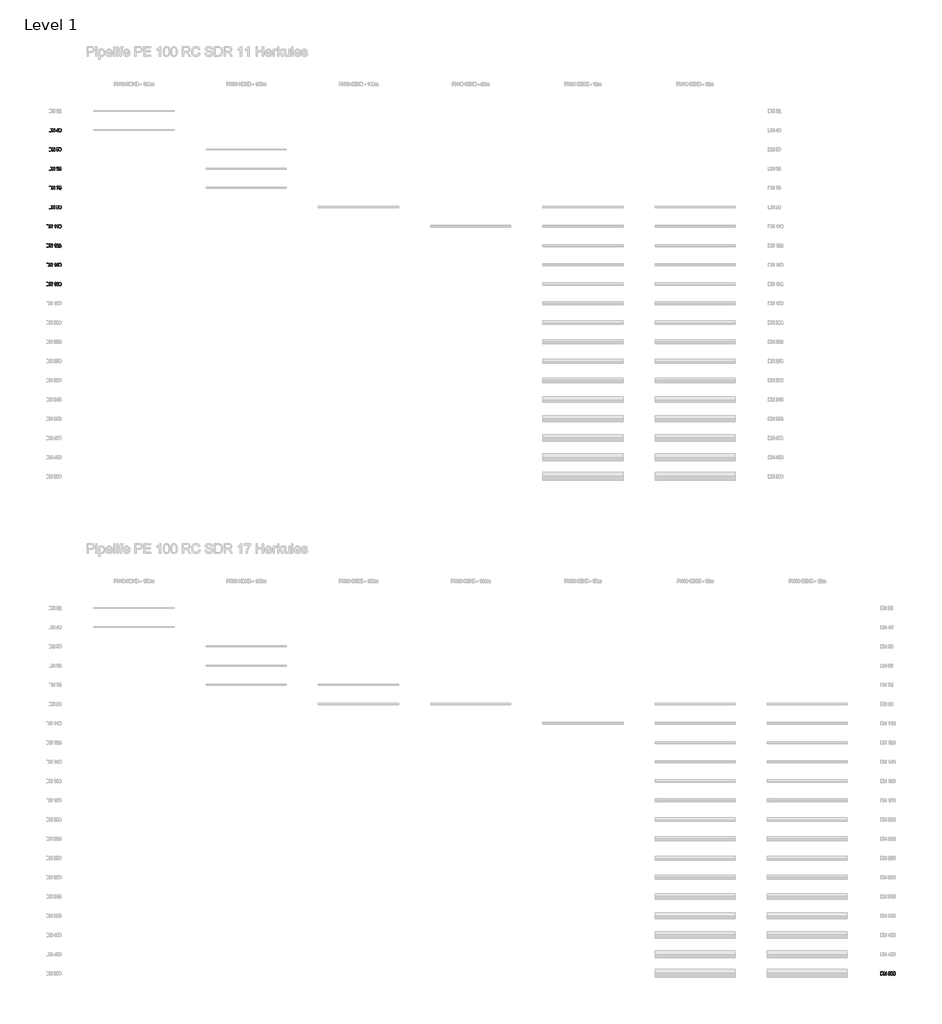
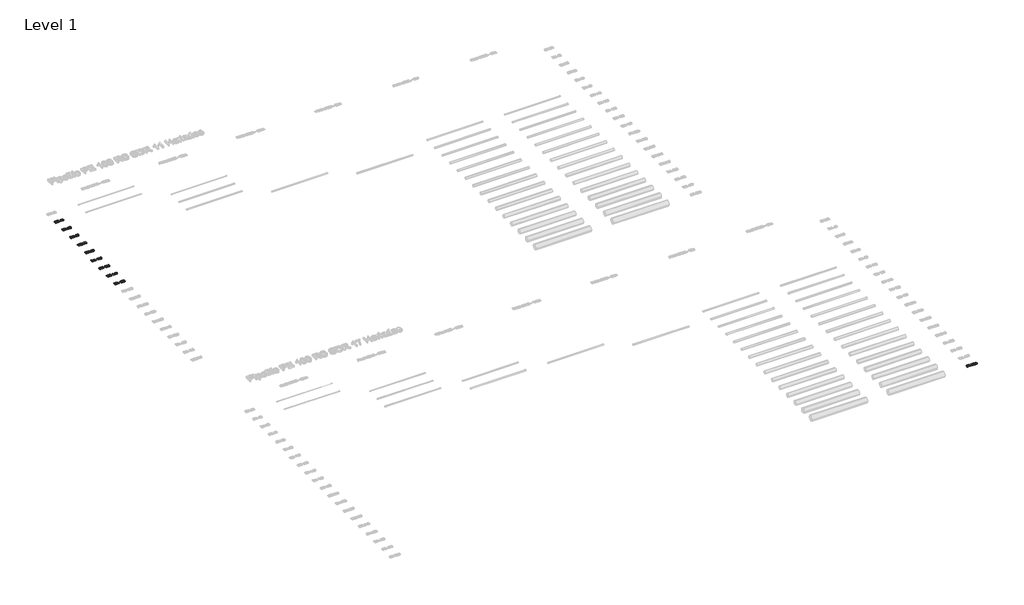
# One storey, part 8 of 17: 10 proxies.
"""IFC4 building model written with IfcOpenShell, lengths in millimetres."""

from ifc_helpers import new_model, si_unit, origin, origin_with_axes, place, context, project, spatial, polyline, outline, extrude, element, save

model = new_model("IFC4")

# Units and contexts
model_context = context("Model", 3, world=origin())
ifc_project = project(units=[si_unit("LENGTHUNIT", "METRE", prefix="MILLI")], contexts=[model_context])

# Site, building, storey
site = spatial("IfcSite", under=ifc_project)
building = spatial("IfcBuilding", under=site)
storey = spatial("IfcBuildingStorey", under=building, Name="Level 1", Elevation=0.0)

# Proxies
placement = place(None, origin())
element("IfcBuildingElementProxy", 1, Name="200mm Arial", ObjectType="200mm Arial", at=placement, inside=storey, context=model_context, shape_type="SweptSolid", body=[
    extrude(outline(polyline([(-19491.3116028, -10313.949573), (-19491.3116028, -10113.0369527), (-19422.0026349, -10113.0369527), (-19386.1464031, -10115.9309577), (-19370.1312736, -10121.5105013), (-19356.6177416, -10130.302881), (-19342.724065, -10145.606772), (-19332.8280393, -10164.6385338), (-19326.9051392, -10187.0302846), (-19324.9308391, -10212.4141423), (-19330.2773908, -10252.9547382), (-19344.0116519, -10282.2136195), (-19362.3567008, -10300.436041), (-19386.3671323, -10310.5160077), (-19418.6671715, -10313.949573), (-19491.3116028, -10313.949573)]), holes=[polyline([(-19466.1975253, -10288.8354954), (-19421.7573803, -10288.8354954), (-19389.4328156, -10285.2057264), (-19370.7934612, -10274.9540815), (-19362.0685265, -10264.0831685), (-19355.5140957, -10250.0116822), (-19351.4122114, -10232.6783089), (-19350.0449167, -10212.0217348), (-19352.7243239, -10184.6513144), (-19360.7625455, -10164.4423301), (-19372.6390025, -10150.5609162), (-19386.8331162, -10142.1732067), (-19422.4440933, -10138.1510302), (-19466.1975253, -10138.1510302), (-19466.1975253, -10288.8354954)])]), origin_with_axes(), (0.0, 0.0, 1.0), 50.0),
    extrude(outline(polyline([(-19290.3989825, -10313.949573), (-19290.3989825, -10113.0369527), (-19263.5190714, -10113.0369527), (-19158.5500754, -10272.2072292), (-19158.5500754, -10113.0369527), (-19133.4359979, -10113.0369527), (-19133.4359979, -10313.949573), (-19160.315909, -10313.949573), (-19265.284905, -10154.7302454), (-19265.284905, -10313.949573), (-19290.3989825, -10313.949573)])), origin_with_axes(), (0.0, 0.0, 1.0), 50.0),
    extrude(outline(polyline([(-18926.2448582, -10313.949573), (-18951.3589358, -10313.949573), (-18951.3589358, -10157.3789958), (-18975.1486381, -10174.3260931), (-19001.5870908, -10187.0057592), (-19001.5870908, -10163.2651077), (-18964.7743658, -10139.769711), (-18951.3037535, -10126.1948653), (-18942.431666, -10113.0369527), (-18926.2448582, -10113.0369527), (-18926.2448582, -10313.949573)])), origin_with_axes(), (0.0, 0.0, 1.0), 50.0),
    extrude(outline(polyline([(-18737.8892767, -10166.4043674), (-18763.0033542, -10169.5436271), (-18772.5192352, -10148.5988789), (-18783.9113143, -10140.7629924), (-18797.6823636, -10138.1510302), (-18820.3438945, -10144.2333458), (-18829.7800677, -10153.8411973), (-18837.4871955, -10167.066555), (-18842.6927257, -10185.7733545), (-18844.6241062, -10211.8255311), (-18834.5502709, -10200.0717013), (-18822.4776101, -10191.7882251), (-18809.0805741, -10186.8770005), (-18795.0336133, -10185.2399256), (-18771.8325221, -10189.7158232), (-18752.3593018, -10203.143516), (-18739.1523382, -10223.6590686), (-18734.750017, -10249.3985455), (-18736.8224189, -10267.3818437), (-18743.0396246, -10284.0530295), (-18752.8865994, -10298.1919608), (-18765.8483083, -10308.5784958), (-18781.3361403, -10314.9612484), (-18798.7614842, -10317.0888326), (-18827.2539447, -10311.4479754), (-18849.9461324, -10294.5254036), (-18858.6051549, -10281.4165418), (-18864.7901709, -10264.6533856), (-18869.7381838, -10220.1641897), (-18864.2444793, -10170.144501), (-18857.3773487, -10151.0667539), (-18847.7633659, -10135.9437382), (-18837.3431084, -10125.9220195), (-18825.2612505, -10118.763649), (-18796.1127338, -10113.0369527), (-18774.0766023, -10116.5808825), (-18756.4305292, -10127.2126722), (-18744.0696942, -10144.0984558), (-18737.8892767, -10166.4043674)]), holes=[polyline([(-18844.6241062, -10249.0061381), (-18838.8115707, -10270.7602267), (-18823.3605269, -10286.554627), (-18800.7235215, -10291.9747551), (-18784.1504376, -10289.1665892), (-18771.1212836, -10280.7420915), (-18762.6783918, -10267.4983397), (-18759.8640945, -10250.2324114), (-18762.6416036, -10233.6593275), (-18770.9741308, -10221.022581), (-18784.224014, -10213.0211476), (-18801.7535911, -10210.3540031), (-18818.3021495, -10213.0211476), (-18832.1406439, -10221.022581), (-18841.5032406, -10233.3527592), (-18844.6241062, -10249.0061381)])]), origin_with_axes(), (0.0, 0.0, 1.0), 50.0),
    extrude(outline(polyline([(-18712.7751992, -10215.1119436), (-18710.9296578, -10182.9529258), (-18705.3930338, -10157.3054194), (-18696.2205094, -10137.7770168), (-18683.4672669, -10123.9753106), (-18667.0413358, -10115.7715422), (-18646.8507456, -10113.0369527), (-18631.3751764, -10114.6556334), (-18617.5182879, -10119.5116758), (-18605.930005, -10127.4150073), (-18597.2602527, -10138.1755557), (-18585.4880288, -10167.9004209), (-18580.9262921, -10215.1119436), (-18582.7534393, -10247.0870203), (-18588.2348811, -10272.6732131), (-18597.3522232, -10292.2200098), (-18610.0870716, -10306.0768983), (-18626.5497909, -10314.335849), (-18646.8507456, -10317.0888326), (-18672.9458418, -10312.3063667), (-18692.7624186, -10297.9589689), (-18701.5180101, -10282.8298218), (-18707.772004, -10263.9789353), (-18712.7751992, -10215.1119436)]), holes=[polyline([(-18687.6611216, -10215.0628927), (-18684.7180657, -10254.5672876), (-18675.8888978, -10277.4311536), (-18662.7432478, -10288.3388547), (-18646.8507456, -10291.9747551), (-18630.9582434, -10288.326592), (-18617.8125935, -10277.3821026), (-18608.9834256, -10254.5059739), (-18606.0403696, -10215.0628927), (-18608.8853237, -10176.4475459), (-18617.420186, -10153.4058703), (-18630.5413105, -10141.9647402), (-18647.1450512, -10138.1510302), (-18662.8658751, -10141.5110191), (-18675.4964903, -10151.5909857), (-18684.6199638, -10176.0674012), (-18687.6611216, -10215.0628927)])]), origin_with_axes(), (0.0, 0.0, 1.0), 50.0),
])
element("IfcBuildingElementProxy", 2, Name="200mm Arial", ObjectType="200mm Arial", at=placement, inside=storey, context=model_context, shape_type="SweptSolid", body=[
    extrude(outline(polyline([(-19337.4878779, -713.949573), (-19337.4878779, -513.0369527), (-19268.17891, -513.0369527), (-19232.3226782, -515.9309577), (-19216.3075487, -521.5105013), (-19202.7940167, -530.302881), (-19188.90034, -545.606772), (-19179.0043144, -564.6385338), (-19173.0814143, -587.0302846), (-19171.1071142, -612.4141423), (-19176.4536659, -652.9547382), (-19190.187927, -682.2136195), (-19208.5329759, -700.436041), (-19232.5434074, -710.5160077), (-19264.8434466, -713.949573), (-19337.4878779, -713.949573)]), holes=[polyline([(-19312.3738004, -688.8354954), (-19267.9336553, -688.8354954), (-19235.6090907, -685.2057264), (-19216.9697363, -674.9540815), (-19208.2448016, -664.0831685), (-19201.6903707, -650.0116822), (-19197.5884865, -632.6783089), (-19196.2211917, -612.0217348), (-19198.9005989, -584.6513144), (-19206.9388205, -564.4423301), (-19218.8152776, -550.5609162), (-19233.0093913, -542.1732067), (-19268.6203684, -538.1510302), (-19312.3738004, -538.1510302), (-19312.3738004, -688.8354954)])]), origin_with_axes(), (0.0, 0.0, 1.0), 50.0),
    extrude(outline(polyline([(-19136.5752576, -713.949573), (-19136.5752576, -513.0369527), (-19109.6953465, -513.0369527), (-19004.7263505, -672.2072292), (-19004.7263505, -513.0369527), (-18979.612273, -513.0369527), (-18979.612273, -713.949573), (-19006.4921841, -713.949573), (-19111.4611801, -554.7302454), (-19111.4611801, -713.949573), (-19136.5752576, -713.949573)])), origin_with_axes(), (0.0, 0.0, 1.0), 50.0),
    extrude(outline(polyline([(-18784.9781721, -713.949573), (-18784.9781721, -666.8606776), (-18876.0167031, -666.8606776), (-18876.0167031, -641.7466), (-18778.6996527, -516.1762123), (-18759.8640945, -516.1762123), (-18759.8640945, -641.7466), (-18734.750017, -641.7466), (-18734.750017, -666.8606776), (-18759.8640945, -666.8606776), (-18759.8640945, -713.949573), (-18784.9781721, -713.949573)]), holes=[polyline([(-18784.9781721, -641.7466), (-18784.9781721, -564.1480245), (-18845.1146156, -641.7466), (-18784.9781721, -641.7466)])]), origin_with_axes(), (0.0, 0.0, 1.0), 50.0),
    extrude(outline(polyline([(-18712.7751992, -615.1119436), (-18710.9296578, -582.9529258), (-18705.3930338, -557.3054194), (-18696.2205094, -537.7770168), (-18683.4672669, -523.9753106), (-18667.0413358, -515.7715422), (-18646.8507456, -513.0369527), (-18631.3751764, -514.6556334), (-18617.5182879, -519.5116758), (-18605.930005, -527.4150073), (-18597.2602527, -538.1755557), (-18585.4880288, -567.9004209), (-18580.9262921, -615.1119436), (-18582.7534393, -647.0870203), (-18588.2348811, -672.6732131), (-18597.3522232, -692.2200098), (-18610.0870716, -706.0768983), (-18626.5497909, -714.335849), (-18646.8507456, -717.0888326), (-18672.9458418, -712.3063667), (-18692.7624186, -697.9589689), (-18701.5180101, -682.8298218), (-18707.772004, -663.9789353), (-18712.7751992, -615.1119436)]), holes=[polyline([(-18687.6611216, -615.0628927), (-18684.7180657, -654.5672876), (-18675.8888978, -677.4311536), (-18662.7432478, -688.3388547), (-18646.8507456, -691.9747551), (-18630.9582434, -688.326592), (-18617.8125935, -677.3821026), (-18608.9834256, -654.5059739), (-18606.0403696, -615.0628927), (-18608.8853237, -576.4475459), (-18617.420186, -553.4058703), (-18630.5413105, -541.9647402), (-18647.1450512, -538.1510302), (-18662.8658751, -541.5110191), (-18675.4964903, -551.5909857), (-18684.6199638, -576.0674012), (-18687.6611216, -615.0628927)])]), origin_with_axes(), (0.0, 0.0, 1.0), 50.0),
])
element("IfcBuildingElementProxy", 3, Name="200mm Arial", ObjectType="200mm Arial", at=placement, inside=storey, context=model_context, shape_type="SweptSolid", body=[
    extrude(outline(polyline([(-19337.4878779, -1913.949573), (-19337.4878779, -1713.0369527), (-19268.17891, -1713.0369527), (-19232.3226782, -1715.9309577), (-19216.3075487, -1721.5105013), (-19202.7940167, -1730.302881), (-19188.90034, -1745.606772), (-19179.0043144, -1764.6385338), (-19173.0814143, -1787.0302846), (-19171.1071142, -1812.4141423), (-19176.4536659, -1852.9547382), (-19190.187927, -1882.2136195), (-19208.5329759, -1900.436041), (-19232.5434074, -1910.5160077), (-19264.8434466, -1913.949573), (-19337.4878779, -1913.949573)]), holes=[polyline([(-19312.3738004, -1888.8354954), (-19267.9336553, -1888.8354954), (-19235.6090907, -1885.2057264), (-19216.9697363, -1874.9540815), (-19208.2448016, -1864.0831685), (-19201.6903707, -1850.0116822), (-19197.5884865, -1832.6783089), (-19196.2211917, -1812.0217348), (-19198.9005989, -1784.6513144), (-19206.9388205, -1764.4423301), (-19218.8152776, -1750.5609162), (-19233.0093913, -1742.1732067), (-19268.6203684, -1738.1510302), (-19312.3738004, -1738.1510302), (-19312.3738004, -1888.8354954)])]), origin_with_axes(), (0.0, 0.0, 1.0), 50.0),
    extrude(outline(polyline([(-19136.5752576, -1913.949573), (-19136.5752576, -1713.0369527), (-19109.6953465, -1713.0369527), (-19004.7263505, -1872.2072292), (-19004.7263505, -1713.0369527), (-18979.612273, -1713.0369527), (-18979.612273, -1913.949573), (-19006.4921841, -1913.949573), (-19111.4611801, -1754.7302454), (-19111.4611801, -1913.949573), (-19136.5752576, -1913.949573)])), origin_with_axes(), (0.0, 0.0, 1.0), 50.0),
    extrude(outline(polyline([(-18866.5989241, -1860.5821582), (-18841.4848465, -1857.4428985), (-18836.8740589, -1872.5199289), (-18828.8297059, -1883.3172655), (-18817.3885758, -1889.8103827), (-18802.5874569, -1891.9747551), (-18784.5857646, -1888.9642541), (-18771.0967581, -1879.9327511), (-18762.6722604, -1865.9225785), (-18759.8640945, -1847.9760685), (-18762.4944508, -1831.0780222), (-18770.3855196, -1818.1531014), (-18783.5986146, -1809.9493329), (-18802.1950494, -1807.2147434), (-18824.2434437, -1811.5802764), (-18838.3455868, -1822.9110419), (-18863.4596644, -1819.7717822), (-18841.4848465, -1716.1762123), (-18744.1677961, -1716.1762123), (-18744.1677961, -1741.2902899), (-18821.1777604, -1741.2902899), (-18831.9199147, -1796.619742), (-18813.979536, -1785.7304349), (-18795.1807661, -1782.1006659), (-18771.7160261, -1786.601089), (-18752.2366745, -1800.1023582), (-18739.1216814, -1820.6792244), (-18734.750017, -1846.4064386), (-18738.6863543, -1871.5205162), (-18750.4953664, -1893.0048247), (-18760.9309523, -1903.5415782), (-18773.1078464, -1911.0678307), (-18787.0260485, -1915.5835821), (-18802.6855588, -1917.0888326), (-18827.3520466, -1913.2199403), (-18847.0030765, -1901.6132634), (-18860.4736888, -1883.6177025), (-18866.5989241, -1860.5821582)])), origin_with_axes(), (0.0, 0.0, 1.0), 50.0),
    extrude(outline(polyline([(-18712.7751992, -1815.1119436), (-18710.9296578, -1782.9529258), (-18705.3930338, -1757.3054194), (-18696.2205094, -1737.7770168), (-18683.4672669, -1723.9753106), (-18667.0413358, -1715.7715422), (-18646.8507456, -1713.0369527), (-18631.3751764, -1714.6556334), (-18617.5182879, -1719.5116758), (-18605.930005, -1727.4150073), (-18597.2602527, -1738.1755557), (-18585.4880288, -1767.9004209), (-18580.9262921, -1815.1119436), (-18582.7534393, -1847.0870203), (-18588.2348811, -1872.6732131), (-18597.3522232, -1892.2200098), (-18610.0870716, -1906.0768983), (-18626.5497909, -1914.335849), (-18646.8507456, -1917.0888326), (-18672.9458418, -1912.3063667), (-18692.7624186, -1897.9589689), (-18701.5180101, -1882.8298218), (-18707.772004, -1863.9789353), (-18712.7751992, -1815.1119436)]), holes=[polyline([(-18687.6611216, -1815.0628927), (-18684.7180657, -1854.5672876), (-18675.8888978, -1877.4311536), (-18662.7432478, -1888.3388547), (-18646.8507456, -1891.9747551), (-18630.9582434, -1888.326592), (-18617.8125935, -1877.3821026), (-18608.9834256, -1854.5059739), (-18606.0403696, -1815.0628927), (-18608.8853237, -1776.4475459), (-18617.420186, -1753.4058703), (-18630.5413105, -1741.9647402), (-18647.1450512, -1738.1510302), (-18662.8658751, -1741.5110191), (-18675.4964903, -1751.5909857), (-18684.6199638, -1776.0674012), (-18687.6611216, -1815.0628927)])]), origin_with_axes(), (0.0, 0.0, 1.0), 50.0),
])
element("IfcBuildingElementProxy", 4, Name="200mm Arial", ObjectType="200mm Arial", at=placement, inside=storey, context=model_context, shape_type="SweptSolid", body=[
    extrude(outline(polyline([(-19337.4878779, -3113.949573), (-19337.4878779, -2913.0369527), (-19268.17891, -2913.0369527), (-19232.3226782, -2915.9309577), (-19216.3075487, -2921.5105013), (-19202.7940167, -2930.302881), (-19188.90034, -2945.606772), (-19179.0043144, -2964.6385338), (-19173.0814143, -2987.0302846), (-19171.1071142, -3012.4141423), (-19176.4536659, -3052.9547382), (-19190.187927, -3082.2136195), (-19208.5329759, -3100.436041), (-19232.5434074, -3110.5160077), (-19264.8434466, -3113.949573), (-19337.4878779, -3113.949573)]), holes=[polyline([(-19312.3738004, -3088.8354954), (-19267.9336553, -3088.8354954), (-19235.6090907, -3085.2057264), (-19216.9697363, -3074.9540815), (-19208.2448016, -3064.0831685), (-19201.6903707, -3050.0116822), (-19197.5884865, -3032.6783089), (-19196.2211917, -3012.0217348), (-19198.9005989, -2984.6513144), (-19206.9388205, -2964.4423301), (-19218.8152776, -2950.5609162), (-19233.0093913, -2942.1732067), (-19268.6203684, -2938.1510302), (-19312.3738004, -2938.1510302), (-19312.3738004, -3088.8354954)])]), origin_with_axes(), (0.0, 0.0, 1.0), 50.0),
    extrude(outline(polyline([(-19136.5752576, -3113.949573), (-19136.5752576, -2913.0369527), (-19109.6953465, -2913.0369527), (-19004.7263505, -3072.2072292), (-19004.7263505, -2913.0369527), (-18979.612273, -2913.0369527), (-18979.612273, -3113.949573), (-19006.4921841, -3113.949573), (-19111.4611801, -2954.7302454), (-19111.4611801, -3113.949573), (-19136.5752576, -3113.949573)])), origin_with_axes(), (0.0, 0.0, 1.0), 50.0),
    extrude(outline(polyline([(-18737.8892767, -2966.4043674), (-18763.0033542, -2969.5436271), (-18772.5192352, -2948.5988789), (-18783.9113143, -2940.7629924), (-18797.6823636, -2938.1510302), (-18820.3438945, -2944.2333458), (-18829.7800677, -2953.8411973), (-18837.4871955, -2967.066555), (-18842.6927257, -2985.7733545), (-18844.6241062, -3011.8255311), (-18834.5502709, -3000.0717013), (-18822.4776101, -2991.7882251), (-18809.0805741, -2986.8770005), (-18795.0336133, -2985.2399256), (-18771.8325221, -2989.7158232), (-18752.3593018, -3003.143516), (-18739.1523382, -3023.6590686), (-18734.750017, -3049.3985455), (-18736.8224189, -3067.3818437), (-18743.0396246, -3084.0530295), (-18752.8865994, -3098.1919608), (-18765.8483083, -3108.5784958), (-18781.3361403, -3114.9612484), (-18798.7614842, -3117.0888326), (-18827.2539447, -3111.4479754), (-18849.9461324, -3094.5254036), (-18858.6051549, -3081.4165418), (-18864.7901709, -3064.6533856), (-18869.7381838, -3020.1641897), (-18864.2444793, -2970.144501), (-18857.3773487, -2951.0667539), (-18847.7633659, -2935.9437382), (-18837.3431084, -2925.9220195), (-18825.2612505, -2918.763649), (-18796.1127338, -2913.0369527), (-18774.0766023, -2916.5808825), (-18756.4305292, -2927.2126722), (-18744.0696942, -2944.0984558), (-18737.8892767, -2966.4043674)]), holes=[polyline([(-18844.6241062, -3049.0061381), (-18838.8115707, -3070.7602267), (-18823.3605269, -3086.554627), (-18800.7235215, -3091.9747551), (-18784.1504376, -3089.1665892), (-18771.1212836, -3080.7420915), (-18762.6783918, -3067.4983397), (-18759.8640945, -3050.2324114), (-18762.6416036, -3033.6593275), (-18770.9741308, -3021.022581), (-18784.224014, -3013.0211476), (-18801.7535911, -3010.3540031), (-18818.3021495, -3013.0211476), (-18832.1406439, -3021.022581), (-18841.5032406, -3033.3527592), (-18844.6241062, -3049.0061381)])]), origin_with_axes(), (0.0, 0.0, 1.0), 50.0),
    extrude(outline(polyline([(-18712.7751992, -3060.5821582), (-18687.6611216, -3057.4428985), (-18682.0386585, -3073.2250361), (-18673.8042331, -3083.8813512), (-18662.5531754, -3089.9514041), (-18647.8808152, -3091.9747551), (-18630.6639378, -3089.1911147), (-18617.3711351, -3080.8401934), (-18608.873061, -3068.3812565), (-18606.0403696, -3053.2735692), (-18608.8485355, -3038.9323028), (-18617.2730332, -3027.3011004), (-18630.0262757, -3019.5939726), (-18645.820676, -3017.02493), (-18663.4299609, -3019.7717822), (-18660.6340577, -2994.6577047), (-18656.6118812, -2994.9520102), (-18641.5655076, -2993.1493885), (-18628.1132893, -2987.7415231), (-18618.6219339, -2978.5935242), (-18615.4581487, -2965.5705016), (-18617.7512798, -2954.7241141), (-18624.6306731, -2945.925603), (-18635.1275727, -2940.0946734), (-18648.2732227, -2938.1510302), (-18661.4433981, -2940.1130675), (-18672.2100778, -2945.9991794), (-18680.0704898, -2955.809366), (-18684.5218619, -2969.5436271), (-18709.6359395, -2966.4043674), (-18702.2415114, -2943.8532011), (-18689.0835987, -2927.0164685), (-18671.0819064, -2916.5318316), (-18649.1561395, -2913.0369527), (-18633.3678705, -2914.7598667), (-18618.8671885, -2919.9286087), (-18606.6412435, -2928.0833263), (-18597.6771856, -2938.7641669), (-18592.1773498, -2951.0698196), (-18590.3440712, -2964.0989736), (-18592.0853793, -2976.2390794), (-18597.3093036, -2987.2510138), (-18605.9422678, -2996.6320047), (-18617.9106953, -3003.87928), (-18602.1898714, -3010.2313758), (-18590.5402749, -3021.0471064), (-18583.3297878, -3035.7378608), (-18580.9262921, -3053.7150276), (-18585.7332835, -3078.191443), (-18600.1542577, -3098.645682), (-18621.9206091, -3112.478045), (-18648.763732, -3117.0888326), (-18673.0439437, -3113.1524953), (-18692.8114695, -3101.3434833), (-18706.5579934, -3083.2804773), (-18712.7751992, -3060.5821582)])), origin_with_axes(), (0.0, 0.0, 1.0), 50.0),
])
element("IfcBuildingElementProxy", 5, Name="200mm Arial", ObjectType="200mm Arial", at=placement, inside=storey, context=model_context, shape_type="SweptSolid", body=[
    extrude(outline(polyline([(-19337.4878779, -4313.949573), (-19337.4878779, -4113.0369527), (-19268.17891, -4113.0369527), (-19232.3226782, -4115.9309577), (-19216.3075487, -4121.5105013), (-19202.7940167, -4130.302881), (-19188.90034, -4145.606772), (-19179.0043144, -4164.6385338), (-19173.0814143, -4187.0302846), (-19171.1071142, -4212.4141423), (-19176.4536659, -4252.9547382), (-19190.187927, -4282.2136195), (-19208.5329759, -4300.436041), (-19232.5434074, -4310.5160077), (-19264.8434466, -4313.949573), (-19337.4878779, -4313.949573)]), holes=[polyline([(-19312.3738004, -4288.8354954), (-19267.9336553, -4288.8354954), (-19235.6090907, -4285.2057264), (-19216.9697363, -4274.9540815), (-19208.2448016, -4264.0831685), (-19201.6903707, -4250.0116822), (-19197.5884865, -4232.6783089), (-19196.2211917, -4212.0217348), (-19198.9005989, -4184.6513144), (-19206.9388205, -4164.4423301), (-19218.8152776, -4150.5609162), (-19233.0093913, -4142.1732067), (-19268.6203684, -4138.1510302), (-19312.3738004, -4138.1510302), (-19312.3738004, -4288.8354954)])]), origin_with_axes(), (0.0, 0.0, 1.0), 50.0),
    extrude(outline(polyline([(-19136.5752576, -4313.949573), (-19136.5752576, -4113.0369527), (-19109.6953465, -4113.0369527), (-19004.7263505, -4272.2072292), (-19004.7263505, -4113.0369527), (-18979.612273, -4113.0369527), (-18979.612273, -4313.949573), (-19006.4921841, -4313.949573), (-19111.4611801, -4154.7302454), (-19111.4611801, -4313.949573), (-19136.5752576, -4313.949573)])), origin_with_axes(), (0.0, 0.0, 1.0), 50.0),
    extrude(outline(polyline([(-18866.5989241, -4141.2902899), (-18866.5989241, -4116.1762123), (-18734.750017, -4116.1762123), (-18734.750017, -4136.4832985), (-18753.5426556, -4160.2668695), (-18772.1513532, -4190.5129008), (-18788.5650215, -4224.4622776), (-18800.7725724, -4259.3558849), (-18810.0922496, -4313.949573), (-18835.2063271, -4313.949573), (-18832.4901317, -4288.0629432), (-18825.2244623, -4257.2957457), (-18813.6055227, -4224.6830068), (-18797.8295164, -4193.2597531), (-18779.4108912, -4164.8531317), (-18759.8640945, -4141.2902899), (-18866.5989241, -4141.2902899)])), origin_with_axes(), (0.0, 0.0, 1.0), 50.0),
    extrude(outline(polyline([(-18712.7751992, -4260.5821582), (-18687.6611216, -4257.4428985), (-18683.0503339, -4272.5199289), (-18675.005981, -4283.3172655), (-18663.5648509, -4289.8103827), (-18648.763732, -4291.9747551), (-18630.7620397, -4288.9642541), (-18617.2730332, -4279.9327511), (-18608.8485355, -4265.9225785), (-18606.0403696, -4247.9760685), (-18608.6707259, -4231.0780222), (-18616.5617947, -4218.1531014), (-18629.7748897, -4209.9493329), (-18648.3713245, -4207.2147434), (-18670.4197188, -4211.5802764), (-18684.5218619, -4222.9110419), (-18709.6359395, -4219.7717822), (-18687.6611216, -4116.1762123), (-18590.3440712, -4116.1762123), (-18590.3440712, -4141.2902899), (-18667.3540355, -4141.2902899), (-18678.0961897, -4196.619742), (-18660.1558111, -4185.7304349), (-18641.3570412, -4182.1006659), (-18617.8923012, -4186.601089), (-18598.4129496, -4200.1023582), (-18585.2979565, -4220.6792244), (-18580.9262921, -4246.4064386), (-18584.8626294, -4271.5205162), (-18596.6716415, -4293.0048247), (-18607.1072274, -4303.5415782), (-18619.2841214, -4311.0678307), (-18633.2023236, -4315.5835821), (-18648.8618339, -4317.0888326), (-18673.5283216, -4313.2199403), (-18693.1793515, -4301.6132634), (-18706.6499639, -4283.6177025), (-18712.7751992, -4260.5821582)])), origin_with_axes(), (0.0, 0.0, 1.0), 50.0),
])
element("IfcBuildingElementProxy", 6, Name="200mm Arial", ObjectType="200mm Arial", at=placement, inside=storey, context=model_context, shape_type="SweptSolid", body=[
    extrude(outline(polyline([(-19337.4878779, -5513.949573), (-19337.4878779, -5313.0369527), (-19268.17891, -5313.0369527), (-19232.3226782, -5315.9309577), (-19216.3075487, -5321.5105013), (-19202.7940167, -5330.302881), (-19188.90034, -5345.606772), (-19179.0043144, -5364.6385338), (-19173.0814143, -5387.0302846), (-19171.1071142, -5412.4141423), (-19176.4536659, -5452.9547382), (-19190.187927, -5482.2136195), (-19208.5329759, -5500.436041), (-19232.5434074, -5510.5160077), (-19264.8434466, -5513.949573), (-19337.4878779, -5513.949573)]), holes=[polyline([(-19312.3738004, -5488.8354954), (-19267.9336553, -5488.8354954), (-19235.6090907, -5485.2057264), (-19216.9697363, -5474.9540815), (-19208.2448016, -5464.0831685), (-19201.6903707, -5450.0116822), (-19197.5884865, -5432.6783089), (-19196.2211917, -5412.0217348), (-19198.9005989, -5384.6513144), (-19206.9388205, -5364.4423301), (-19218.8152776, -5350.5609162), (-19233.0093913, -5342.1732067), (-19268.6203684, -5338.1510302), (-19312.3738004, -5338.1510302), (-19312.3738004, -5488.8354954)])]), origin_with_axes(), (0.0, 0.0, 1.0), 50.0),
    extrude(outline(polyline([(-19136.5752576, -5513.949573), (-19136.5752576, -5313.0369527), (-19109.6953465, -5313.0369527), (-19004.7263505, -5472.2072292), (-19004.7263505, -5313.0369527), (-18979.612273, -5313.0369527), (-18979.612273, -5513.949573), (-19006.4921841, -5513.949573), (-19111.4611801, -5354.7302454), (-19111.4611801, -5513.949573), (-19136.5752576, -5513.949573)])), origin_with_axes(), (0.0, 0.0, 1.0), 50.0),
    extrude(outline(polyline([(-18863.4596644, -5463.7214179), (-18838.3455868, -5460.5821582), (-18834.0536302, -5474.8375855), (-18827.0638723, -5484.5435388), (-18817.5479914, -5490.116951), (-18805.6776657, -5491.9747551), (-18785.3460541, -5487.1922892), (-18771.562742, -5474.4145212), (-18763.3467108, -5452.5868562), (-18759.7169417, -5423.4506021), (-18759.8640945, -5418.5455089), (-18768.5645037, -5429.1650358), (-18779.9504515, -5437.5772708), (-18793.2003347, -5443.0587125), (-18807.4925502, -5444.8858597), (-18830.3932044, -5440.4222249), (-18849.4556231, -5427.0313202), (-18862.3130988, -5406.3440894), (-18866.5989241, -5379.9914758), (-18862.1046324, -5352.7682081), (-18848.6217572, -5331.4310524), (-18828.3698534, -5317.6354776), (-18803.5684756, -5313.0369527), (-18784.8371506, -5315.6611776), (-18767.7858202, -5323.5338523), (-18753.5242615, -5336.2625693), (-18743.162252, -5353.4549212), (-18736.8530757, -5377.2200981), (-18734.750017, -5409.6672901), (-18736.8469444, -5444.070388), (-18743.1377265, -5470.6621249), (-18753.5671811, -5490.6442486), (-18768.0801258, -5505.2185069), (-18786.0511612, -5514.1212512), (-18806.8548881, -5517.0888326), (-18828.3269338, -5513.5878223), (-18845.4579721, -5503.0847914), (-18857.4386624, -5486.2419274), (-18863.4596644, -5463.7214179)]), holes=[polyline([(-18759.8640945, -5379.4028646), (-18762.5741586, -5362.3821909), (-18770.7043507, -5349.2855919), (-18783.3227031, -5340.9346706), (-18799.4972481, -5338.1510302), (-18816.2726671, -5341.1492685), (-18829.7126227, -5350.1439832), (-18838.5417906, -5363.9089012), (-18841.4848465, -5381.2177491), (-18838.7012061, -5396.7362379), (-18830.3502848, -5409.0541534), (-18817.241423, -5417.092375), (-18800.1839612, -5419.7717822), (-18784.1381749, -5417.092375), (-18771.2193855, -5409.0541534), (-18762.7029173, -5396.2825168), (-18759.8640945, -5379.4028646)])]), origin_with_axes(), (0.0, 0.0, 1.0), 50.0),
    extrude(outline(polyline([(-18712.7751992, -5415.1119436), (-18710.9296578, -5382.9529258), (-18705.3930338, -5357.3054194), (-18696.2205094, -5337.7770168), (-18683.4672669, -5323.9753106), (-18667.0413358, -5315.7715422), (-18646.8507456, -5313.0369527), (-18631.3751764, -5314.6556334), (-18617.5182879, -5319.5116758), (-18605.930005, -5327.4150073), (-18597.2602527, -5338.1755557), (-18585.4880288, -5367.9004209), (-18580.9262921, -5415.1119436), (-18582.7534393, -5447.0870203), (-18588.2348811, -5472.6732131), (-18597.3522232, -5492.2200098), (-18610.0870716, -5506.0768983), (-18626.5497909, -5514.335849), (-18646.8507456, -5517.0888326), (-18672.9458418, -5512.3063667), (-18692.7624186, -5497.9589689), (-18701.5180101, -5482.8298218), (-18707.772004, -5463.9789353), (-18712.7751992, -5415.1119436)]), holes=[polyline([(-18687.6611216, -5415.0628927), (-18684.7180657, -5454.5672876), (-18675.8888978, -5477.4311536), (-18662.7432478, -5488.3388547), (-18646.8507456, -5491.9747551), (-18630.9582434, -5488.326592), (-18617.8125935, -5477.3821026), (-18608.9834256, -5454.5059739), (-18606.0403696, -5415.0628927), (-18608.8853237, -5376.4475459), (-18617.420186, -5353.4058703), (-18630.5413105, -5341.9647402), (-18647.1450512, -5338.1510302), (-18662.8658751, -5341.5110191), (-18675.4964903, -5351.5909857), (-18684.6199638, -5376.0674012), (-18687.6611216, -5415.0628927)])]), origin_with_axes(), (0.0, 0.0, 1.0), 50.0),
])
element("IfcBuildingElementProxy", 7, Name="200mm Arial", ObjectType="200mm Arial", at=placement, inside=storey, context=model_context, shape_type="SweptSolid", body=[
    extrude(outline(polyline([(-19491.3116028, -6713.949573), (-19491.3116028, -6513.0369527), (-19422.0026349, -6513.0369527), (-19386.1464031, -6515.9309577), (-19370.1312736, -6521.5105013), (-19356.6177416, -6530.302881), (-19342.724065, -6545.606772), (-19332.8280393, -6564.6385338), (-19326.9051392, -6587.0302846), (-19324.9308391, -6612.4141423), (-19330.2773908, -6652.9547382), (-19344.0116519, -6682.2136195), (-19362.3567008, -6700.436041), (-19386.3671323, -6710.5160077), (-19418.6671715, -6713.949573), (-19491.3116028, -6713.949573)]), holes=[polyline([(-19466.1975253, -6688.8354954), (-19421.7573803, -6688.8354954), (-19389.4328156, -6685.2057264), (-19370.7934612, -6674.9540815), (-19362.0685265, -6664.0831685), (-19355.5140957, -6650.0116822), (-19351.4122114, -6632.6783089), (-19350.0449167, -6612.0217348), (-19352.7243239, -6584.6513144), (-19360.7625455, -6564.4423301), (-19372.6390025, -6550.5609162), (-19386.8331162, -6542.1732067), (-19422.4440933, -6538.1510302), (-19466.1975253, -6538.1510302), (-19466.1975253, -6688.8354954)])]), origin_with_axes(), (0.0, 0.0, 1.0), 50.0),
    extrude(outline(polyline([(-19290.3989825, -6713.949573), (-19290.3989825, -6513.0369527), (-19263.5190714, -6513.0369527), (-19158.5500754, -6672.2072292), (-19158.5500754, -6513.0369527), (-19133.4359979, -6513.0369527), (-19133.4359979, -6713.949573), (-19160.315909, -6713.949573), (-19265.284905, -6554.7302454), (-19265.284905, -6713.949573), (-19290.3989825, -6713.949573)])), origin_with_axes(), (0.0, 0.0, 1.0), 50.0),
    extrude(outline(polyline([(-18926.2448582, -6713.949573), (-18951.3589358, -6713.949573), (-18951.3589358, -6557.3789958), (-18975.1486381, -6574.3260931), (-19001.5870908, -6587.0057592), (-19001.5870908, -6563.2651077), (-18964.7743658, -6539.769711), (-18951.3037535, -6526.1948653), (-18942.431666, -6513.0369527), (-18926.2448582, -6513.0369527), (-18926.2448582, -6713.949573)])), origin_with_axes(), (0.0, 0.0, 1.0), 50.0),
    extrude(outline(polyline([(-18772.4211333, -6713.949573), (-18797.5352108, -6713.949573), (-18797.5352108, -6557.3789958), (-18821.3249132, -6574.3260931), (-18847.7633659, -6587.0057592), (-18847.7633659, -6563.2651077), (-18810.9506409, -6539.769711), (-18797.4800285, -6526.1948653), (-18788.6079411, -6513.0369527), (-18772.4211333, -6513.0369527), (-18772.4211333, -6713.949573)])), origin_with_axes(), (0.0, 0.0, 1.0), 50.0),
    extrude(outline(polyline([(-18712.7751992, -6615.1119436), (-18710.9296578, -6582.9529258), (-18705.3930338, -6557.3054194), (-18696.2205094, -6537.7770168), (-18683.4672669, -6523.9753106), (-18667.0413358, -6515.7715422), (-18646.8507456, -6513.0369527), (-18631.3751764, -6514.6556334), (-18617.5182879, -6519.5116758), (-18605.930005, -6527.4150073), (-18597.2602527, -6538.1755557), (-18585.4880288, -6567.9004209), (-18580.9262921, -6615.1119436), (-18582.7534393, -6647.0870203), (-18588.2348811, -6672.6732131), (-18597.3522232, -6692.2200098), (-18610.0870716, -6706.0768983), (-18626.5497909, -6714.335849), (-18646.8507456, -6717.0888326), (-18672.9458418, -6712.3063667), (-18692.7624186, -6697.9589689), (-18701.5180101, -6682.8298218), (-18707.772004, -6663.9789353), (-18712.7751992, -6615.1119436)]), holes=[polyline([(-18687.6611216, -6615.0628927), (-18684.7180657, -6654.5672876), (-18675.8888978, -6677.4311536), (-18662.7432478, -6688.3388547), (-18646.8507456, -6691.9747551), (-18630.9582434, -6688.326592), (-18617.8125935, -6677.3821026), (-18608.9834256, -6654.5059739), (-18606.0403696, -6615.0628927), (-18608.8853237, -6576.4475459), (-18617.420186, -6553.4058703), (-18630.5413105, -6541.9647402), (-18647.1450512, -6538.1510302), (-18662.8658751, -6541.5110191), (-18675.4964903, -6551.5909857), (-18684.6199638, -6576.0674012), (-18687.6611216, -6615.0628927)])]), origin_with_axes(), (0.0, 0.0, 1.0), 50.0),
])
element("IfcBuildingElementProxy", 8, Name="200mm Arial", ObjectType="200mm Arial", at=placement, inside=storey, context=model_context, shape_type="SweptSolid", body=[
    extrude(outline(polyline([(-19491.3116028, -7913.949573), (-19491.3116028, -7713.0369527), (-19422.0026349, -7713.0369527), (-19386.1464031, -7715.9309577), (-19370.1312736, -7721.5105013), (-19356.6177416, -7730.302881), (-19342.724065, -7745.606772), (-19332.8280393, -7764.6385338), (-19326.9051392, -7787.0302846), (-19324.9308391, -7812.4141423), (-19330.2773908, -7852.9547382), (-19344.0116519, -7882.2136195), (-19362.3567008, -7900.436041), (-19386.3671323, -7910.5160077), (-19418.6671715, -7913.949573), (-19491.3116028, -7913.949573)]), holes=[polyline([(-19466.1975253, -7888.8354954), (-19421.7573803, -7888.8354954), (-19389.4328156, -7885.2057264), (-19370.7934612, -7874.9540815), (-19362.0685265, -7864.0831685), (-19355.5140957, -7850.0116822), (-19351.4122114, -7832.6783089), (-19350.0449167, -7812.0217348), (-19352.7243239, -7784.6513144), (-19360.7625455, -7764.4423301), (-19372.6390025, -7750.5609162), (-19386.8331162, -7742.1732067), (-19422.4440933, -7738.1510302), (-19466.1975253, -7738.1510302), (-19466.1975253, -7888.8354954)])]), origin_with_axes(), (0.0, 0.0, 1.0), 50.0),
    extrude(outline(polyline([(-19290.3989825, -7913.949573), (-19290.3989825, -7713.0369527), (-19263.5190714, -7713.0369527), (-19158.5500754, -7872.2072292), (-19158.5500754, -7713.0369527), (-19133.4359979, -7713.0369527), (-19133.4359979, -7913.949573), (-19160.315909, -7913.949573), (-19265.284905, -7754.7302454), (-19265.284905, -7913.949573), (-19290.3989825, -7913.949573)])), origin_with_axes(), (0.0, 0.0, 1.0), 50.0),
    extrude(outline(polyline([(-18926.2448582, -7913.949573), (-18951.3589358, -7913.949573), (-18951.3589358, -7757.3789958), (-18975.1486381, -7774.3260931), (-19001.5870908, -7787.0057592), (-19001.5870908, -7763.2651077), (-18964.7743658, -7739.769711), (-18951.3037535, -7726.1948653), (-18942.431666, -7713.0369527), (-18926.2448582, -7713.0369527), (-18926.2448582, -7913.949573)])), origin_with_axes(), (0.0, 0.0, 1.0), 50.0),
    extrude(outline(polyline([(-18737.8892767, -7888.8354954), (-18737.8892767, -7913.949573), (-18869.7381838, -7913.949573), (-18867.0403825, -7896.6345937), (-18851.7855424, -7869.9754118), (-18820.3438945, -7840.8636832), (-18776.98287, -7799.0232377), (-18768.852678, -7784.6022634), (-18766.1426139, -7770.5736967), (-18768.6993938, -7757.9982638), (-18776.3697334, -7747.5442838), (-18788.1603513, -7740.4993436), (-18803.0779662, -7738.1510302), (-18818.7436079, -7740.4441613), (-18830.9143705, -7747.3235546), (-18838.7686511, -7758.2496499), (-18841.4848465, -7772.6828868), (-18866.5989241, -7769.5436271), (-18860.510477, -7745.2511527), (-18847.346433, -7727.5069778), (-18827.7935049, -7716.6544589), (-18802.538406, -7713.0369527), (-18777.099366, -7717.0591291), (-18757.5832262, -7729.1256586), (-18745.1672088, -7747.1518763), (-18741.0285364, -7769.0531178), (-18745.4921713, -7792.8673456), (-18760.3300784, -7817.4909138), (-18796.3089375, -7851.9001431), (-18825.1999369, -7876.0577275), (-18836.5307023, -7888.8354954), (-18737.8892767, -7888.8354954)])), origin_with_axes(), (0.0, 0.0, 1.0), 50.0),
    extrude(outline(polyline([(-18712.7751992, -7860.5821582), (-18687.6611216, -7857.4428985), (-18683.0503339, -7872.5199289), (-18675.005981, -7883.3172655), (-18663.5648509, -7889.8103827), (-18648.763732, -7891.9747551), (-18630.7620397, -7888.9642541), (-18617.2730332, -7879.9327511), (-18608.8485355, -7865.9225785), (-18606.0403696, -7847.9760685), (-18608.6707259, -7831.0780222), (-18616.5617947, -7818.1531014), (-18629.7748897, -7809.9493329), (-18648.3713245, -7807.2147434), (-18670.4197188, -7811.5802764), (-18684.5218619, -7822.9110419), (-18709.6359395, -7819.7717822), (-18687.6611216, -7716.1762123), (-18590.3440712, -7716.1762123), (-18590.3440712, -7741.2902899), (-18667.3540355, -7741.2902899), (-18678.0961897, -7796.619742), (-18660.1558111, -7785.7304349), (-18641.3570412, -7782.1006659), (-18617.8923012, -7786.601089), (-18598.4129496, -7800.1023582), (-18585.2979565, -7820.6792244), (-18580.9262921, -7846.4064386), (-18584.8626294, -7871.5205162), (-18596.6716415, -7893.0048247), (-18607.1072274, -7903.5415782), (-18619.2841214, -7911.0678307), (-18633.2023236, -7915.5835821), (-18648.8618339, -7917.0888326), (-18673.5283216, -7913.2199403), (-18693.1793515, -7901.6132634), (-18706.6499639, -7883.6177025), (-18712.7751992, -7860.5821582)])), origin_with_axes(), (0.0, 0.0, 1.0), 50.0),
])
element("IfcBuildingElementProxy", 9, Name="200mm Arial", ObjectType="200mm Arial", at=placement, inside=storey, context=model_context, shape_type="SweptSolid", body=[
    extrude(outline(polyline([(-19491.3116028, -9113.949573), (-19491.3116028, -8913.0369527), (-19422.0026349, -8913.0369527), (-19386.1464031, -8915.9309577), (-19370.1312736, -8921.5105013), (-19356.6177416, -8930.302881), (-19342.724065, -8945.606772), (-19332.8280393, -8964.6385338), (-19326.9051392, -8987.0302846), (-19324.9308391, -9012.4141423), (-19330.2773908, -9052.9547382), (-19344.0116519, -9082.2136195), (-19362.3567008, -9100.436041), (-19386.3671323, -9110.5160077), (-19418.6671715, -9113.949573), (-19491.3116028, -9113.949573)]), holes=[polyline([(-19466.1975253, -9088.8354954), (-19421.7573803, -9088.8354954), (-19389.4328156, -9085.2057264), (-19370.7934612, -9074.9540815), (-19362.0685265, -9064.0831685), (-19355.5140957, -9050.0116822), (-19351.4122114, -9032.6783089), (-19350.0449167, -9012.0217348), (-19352.7243239, -8984.6513144), (-19360.7625455, -8964.4423301), (-19372.6390025, -8950.5609162), (-19386.8331162, -8942.1732067), (-19422.4440933, -8938.1510302), (-19466.1975253, -8938.1510302), (-19466.1975253, -9088.8354954)])]), origin_with_axes(), (0.0, 0.0, 1.0), 50.0),
    extrude(outline(polyline([(-19290.3989825, -9113.949573), (-19290.3989825, -8913.0369527), (-19263.5190714, -8913.0369527), (-19158.5500754, -9072.2072292), (-19158.5500754, -8913.0369527), (-19133.4359979, -8913.0369527), (-19133.4359979, -9113.949573), (-19160.315909, -9113.949573), (-19265.284905, -8954.7302454), (-19265.284905, -9113.949573), (-19290.3989825, -9113.949573)])), origin_with_axes(), (0.0, 0.0, 1.0), 50.0),
    extrude(outline(polyline([(-18926.2448582, -9113.949573), (-18951.3589358, -9113.949573), (-18951.3589358, -8957.3789958), (-18975.1486381, -8974.3260931), (-19001.5870908, -8987.0057592), (-19001.5870908, -8963.2651077), (-18964.7743658, -8939.769711), (-18951.3037535, -8926.1948653), (-18942.431666, -8913.0369527), (-18926.2448582, -8913.0369527), (-18926.2448582, -9113.949573)])), origin_with_axes(), (0.0, 0.0, 1.0), 50.0),
    extrude(outline(polyline([(-18784.9781721, -9113.949573), (-18784.9781721, -9066.8606776), (-18876.0167031, -9066.8606776), (-18876.0167031, -9041.7466), (-18778.6996527, -8916.1762123), (-18759.8640945, -8916.1762123), (-18759.8640945, -9041.7466), (-18734.750017, -9041.7466), (-18734.750017, -9066.8606776), (-18759.8640945, -9066.8606776), (-18759.8640945, -9113.949573), (-18784.9781721, -9113.949573)]), holes=[polyline([(-18784.9781721, -9041.7466), (-18784.9781721, -8964.1480245), (-18845.1146156, -9041.7466), (-18784.9781721, -9041.7466)])]), origin_with_axes(), (0.0, 0.0, 1.0), 50.0),
    extrude(outline(polyline([(-18712.7751992, -9015.1119436), (-18710.9296578, -8982.9529258), (-18705.3930338, -8957.3054194), (-18696.2205094, -8937.7770168), (-18683.4672669, -8923.9753106), (-18667.0413358, -8915.7715422), (-18646.8507456, -8913.0369527), (-18631.3751764, -8914.6556334), (-18617.5182879, -8919.5116758), (-18605.930005, -8927.4150073), (-18597.2602527, -8938.1755557), (-18585.4880288, -8967.9004209), (-18580.9262921, -9015.1119436), (-18582.7534393, -9047.0870203), (-18588.2348811, -9072.6732131), (-18597.3522232, -9092.2200098), (-18610.0870716, -9106.0768983), (-18626.5497909, -9114.335849), (-18646.8507456, -9117.0888326), (-18672.9458418, -9112.3063667), (-18692.7624186, -9097.9589689), (-18701.5180101, -9082.8298218), (-18707.772004, -9063.9789353), (-18712.7751992, -9015.1119436)]), holes=[polyline([(-18687.6611216, -9015.0628927), (-18684.7180657, -9054.5672876), (-18675.8888978, -9077.4311536), (-18662.7432478, -9088.3388547), (-18646.8507456, -9091.9747551), (-18630.9582434, -9088.326592), (-18617.8125935, -9077.3821026), (-18608.9834256, -9054.5059739), (-18606.0403696, -9015.0628927), (-18608.8853237, -8976.4475459), (-18617.420186, -8953.4058703), (-18630.5413105, -8941.9647402), (-18647.1450512, -8938.1510302), (-18662.8658751, -8941.5110191), (-18675.4964903, -8951.5909857), (-18684.6199638, -8976.0674012), (-18687.6611216, -9015.0628927)])]), origin_with_axes(), (0.0, 0.0, 1.0), 50.0),
])
element("IfcBuildingElementProxy", 10, Name="200mm Arial", ObjectType="200mm Arial", at=placement, inside=storey, context=model_context, shape_type="SweptSolid", body=[
    extrude(outline(polyline([(32539.3076926, -53313.949573), (32539.3076926, -53113.0369527), (32608.6166605, -53113.0369527), (32644.4728923, -53115.9309577), (32660.4880218, -53121.5105013), (32674.0015538, -53130.302881), (32687.8952305, -53145.606772), (32697.7912562, -53164.6385338), (32703.7141563, -53187.0302846), (32705.6884563, -53212.4141423), (32700.3419047, -53252.9547382), (32686.6076435, -53282.2136195), (32668.2625947, -53300.436041), (32644.2521631, -53310.5160077), (32611.9521239, -53313.949573), (32539.3076926, -53313.949573)]), holes=[polyline([(32564.4217702, -53288.8354954), (32608.8619152, -53288.8354954), (32641.1864798, -53285.2057264), (32659.8258342, -53274.9540815), (32668.5507689, -53264.0831685), (32675.1051998, -53250.0116822), (32679.207084, -53232.6783089), (32680.5743788, -53212.0217348), (32677.8949716, -53184.6513144), (32669.85675, -53164.4423301), (32657.9802929, -53150.5609162), (32643.7861793, -53142.1732067), (32608.1752021, -53138.1510302), (32564.4217702, -53138.1510302), (32564.4217702, -53288.8354954)])]), origin_with_axes(), (0.0, 0.0, 1.0), 50.0),
    extrude(outline(polyline([(32740.2203129, -53313.949573), (32740.2203129, -53113.0369527), (32767.100224, -53113.0369527), (32872.06922, -53272.2072292), (32872.06922, -53113.0369527), (32897.1832975, -53113.0369527), (32897.1832975, -53313.949573), (32870.3033864, -53313.949573), (32765.3343905, -53154.7302454), (32765.3343905, -53313.949573), (32740.2203129, -53313.949573)])), origin_with_axes(), (0.0, 0.0, 1.0), 50.0),
    extrude(outline(polyline([(33010.1966465, -53260.5821582), (33035.310724, -53257.4428985), (33039.9215117, -53272.5199289), (33047.9658646, -53283.3172655), (33059.4069947, -53289.8103827), (33074.2081136, -53291.9747551), (33092.2098059, -53288.9642541), (33105.6988124, -53279.9327511), (33114.1233101, -53265.9225785), (33116.931476, -53247.9760685), (33114.3011197, -53231.0780222), (33106.4100509, -53218.1531014), (33093.1969559, -53209.9493329), (33074.6005211, -53207.2147434), (33052.5521268, -53211.5802764), (33038.4499837, -53222.9110419), (33013.3359061, -53219.7717822), (33035.310724, -53116.1762123), (33132.6277745, -53116.1762123), (33132.6277745, -53141.2902899), (33055.6178101, -53141.2902899), (33044.8756559, -53196.619742), (33062.8160345, -53185.7304349), (33081.6148045, -53182.1006659), (33105.0795444, -53186.601089), (33124.558896, -53200.1023582), (33137.6738892, -53220.6792244), (33142.0455535, -53246.4064386), (33138.1092162, -53271.5205162), (33126.3002041, -53293.0048247), (33115.8646182, -53303.5415782), (33103.6877242, -53311.0678307), (33089.769522, -53315.5835821), (33074.1100118, -53317.0888326), (33049.443524, -53313.2199403), (33029.7924941, -53301.6132634), (33016.3218817, -53283.6177025), (33010.1966465, -53260.5821582)])), origin_with_axes(), (0.0, 0.0, 1.0), 50.0),
    extrude(outline(polyline([(33164.0203714, -53215.1119436), (33165.8659127, -53182.9529258), (33171.4025367, -53157.3054194), (33180.5750612, -53137.7770168), (33193.3283037, -53123.9753106), (33209.7542347, -53115.7715422), (33229.9448249, -53113.0369527), (33245.4203942, -53114.6556334), (33259.2772827, -53119.5116758), (33270.8655655, -53127.4150073), (33279.5353179, -53138.1755557), (33291.3075417, -53167.9004209), (33295.8692784, -53215.1119436), (33294.0421312, -53247.0870203), (33288.5606895, -53272.6732131), (33279.4433474, -53292.2200098), (33266.708499, -53306.0768983), (33250.2457797, -53314.335849), (33229.9448249, -53317.0888326), (33203.8497287, -53312.3063667), (33184.0331519, -53297.9589689), (33175.2775604, -53282.8298218), (33169.0235665, -53263.9789353), (33164.0203714, -53215.1119436)]), holes=[polyline([(33189.1344489, -53215.0628927), (33192.0775049, -53254.5672876), (33200.9066728, -53277.4311536), (33214.0523227, -53288.3388547), (33229.9448249, -53291.9747551), (33245.8373271, -53288.326592), (33258.9829771, -53277.3821026), (33267.8121449, -53254.5059739), (33270.7552009, -53215.0628927), (33267.9102468, -53176.4475459), (33259.3753845, -53153.4058703), (33246.25426, -53141.9647402), (33229.6505193, -53138.1510302), (33213.9296954, -53141.5110191), (33201.2990802, -53151.5909857), (33192.1756067, -53176.0674012), (33189.1344489, -53215.0628927)])]), origin_with_axes(), (0.0, 0.0, 1.0), 50.0),
    extrude(outline(polyline([(33317.8440963, -53215.1119436), (33319.6896376, -53182.9529258), (33325.2262617, -53157.3054194), (33334.3987861, -53137.7770168), (33347.1520286, -53123.9753106), (33363.5779597, -53115.7715422), (33383.7685498, -53113.0369527), (33399.2441191, -53114.6556334), (33413.1010076, -53119.5116758), (33424.6892904, -53127.4150073), (33433.3590428, -53138.1755557), (33445.1312666, -53167.9004209), (33449.6930034, -53215.1119436), (33447.8658561, -53247.0870203), (33442.3844144, -53272.6732131), (33433.2670723, -53292.2200098), (33420.5322239, -53306.0768983), (33404.0695046, -53314.335849), (33383.7685498, -53317.0888326), (33357.6734536, -53312.3063667), (33337.8568768, -53297.9589689), (33329.1012853, -53282.8298218), (33322.8472914, -53263.9789353), (33317.8440963, -53215.1119436)]), holes=[polyline([(33342.9581738, -53215.0628927), (33345.9012298, -53254.5672876), (33354.7303977, -53277.4311536), (33367.8760476, -53288.3388547), (33383.7685498, -53291.9747551), (33399.661052, -53288.326592), (33412.806702, -53277.3821026), (33421.6358699, -53254.5059739), (33424.5789258, -53215.0628927), (33421.7339717, -53176.4475459), (33413.1991094, -53153.4058703), (33400.0779849, -53141.9647402), (33383.4742442, -53138.1510302), (33367.7534203, -53141.5110191), (33355.1228051, -53151.5909857), (33345.9993317, -53176.0674012), (33342.9581738, -53215.0628927)])]), origin_with_axes(), (0.0, 0.0, 1.0), 50.0),
])

save(model, "model.ifc")
